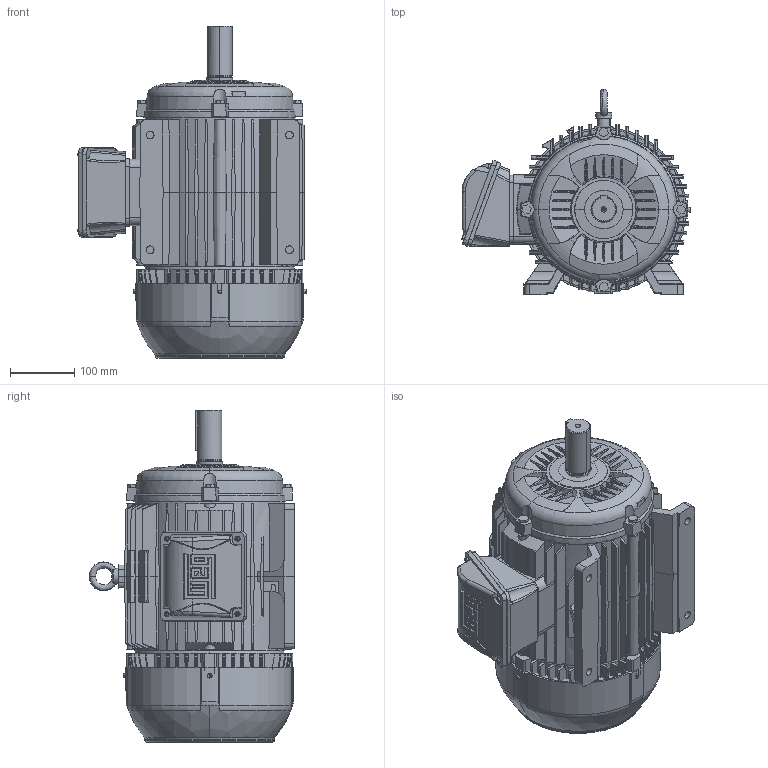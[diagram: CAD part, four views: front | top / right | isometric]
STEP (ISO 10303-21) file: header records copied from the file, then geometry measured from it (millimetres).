
FILE_DESCRIPTION (( 'STEP AP203' ), '1' );
FILE_NAME ('L132M_LEFT.STEP', '2016-09-20T13:01:28', ( 'support' ), ( 'Microsoft' ), 'SwSTEP 2.0', 'SolidWorks 2016', '' );
FILE_SCHEMA (( 'CONFIG_CONTROL_DESIGN' ));
Length unit declared in the file: millimetre
Products named in the file (1): L132M_LEFT
Bounding box: 354.05 x 319 x 515 mm (x, y, z)
Volume: 23825459.1 mm3; surface area: 1222261.3 mm2
Topology: 16 solids, 16 shells, 3297 faces, 8248 edges, 5234 vertices
Faces by surface type: plane 2201, cylinder 473, bspline 367, cone 209, torus 35, sphere 12
Entity records: 107969 total; most frequent: CARTESIAN_POINT 34041, ORIENTED_EDGE 16452, DIRECTION 13538, EDGE_CURVE 8226, VERTEX_POINT 5234, LINE 5218, VECTOR 5218, AXIS2_PLACEMENT_3D 4160
